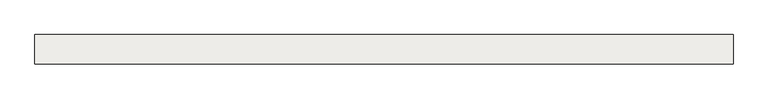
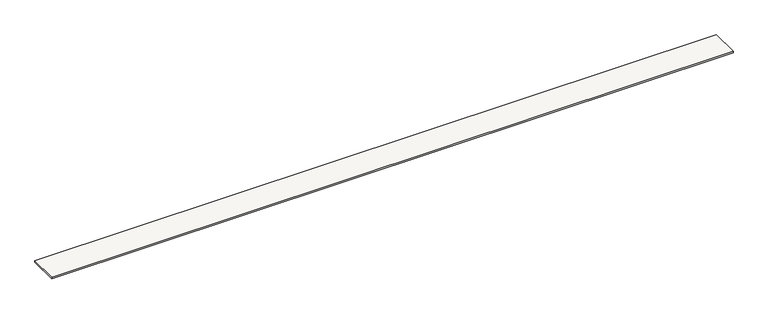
"""IFC4 building model written with IfcOpenShell, lengths in millimetres: slab geometry, Sol-02 - Tablette bois 2cm."""

from ifc_helpers import new_model, si_unit, origin, origin_with_axes, place, context, project, spatial, polyline, outline, extrude, source, transform, mapped, element, save


def slab_764c0487(model_context):
    return source(origin(), model_context, "Body", "SweptSolid", [
        extrude(outline(polyline([(15903.9999799, 11349.9999995), (15903.9999799, 10999.9999995), (7603.9999799, 10999.9999995), (7603.9999799, 11349.9999995), (15903.9999799, 11349.9999995)])), origin_with_axes(), (0.0, 0.0, 1.0), 20.0),
    ])


if __name__ == "__main__":
    model = new_model("IFC4")
    model_context = context("Model", 3, world=origin())
    ifc_project = project(units=[si_unit("LENGTHUNIT", "METRE", prefix="MILLI")], contexts=[model_context])
    site = spatial("IfcSite", under=ifc_project)
    building = spatial("IfcBuilding", under=site)
    placement = place(None, origin())
    slab_shape = slab_764c0487(model_context)
    element("IfcSlab", 1, ObjectType="Sol-02 - Tablette bois 2cm", at=placement, inside=building, context=model_context, shape_type="MappedRepresentation", body=[
        mapped(slab_shape, transform((0.0, 0.0, 0.0), x_axis=(1.0, 0.0, 0.0), y_axis=(0.0, 1.0, 0.0), z_axis=(0.0, 0.0, 1.0))),
    ])
    save(model, "model.ifc")
